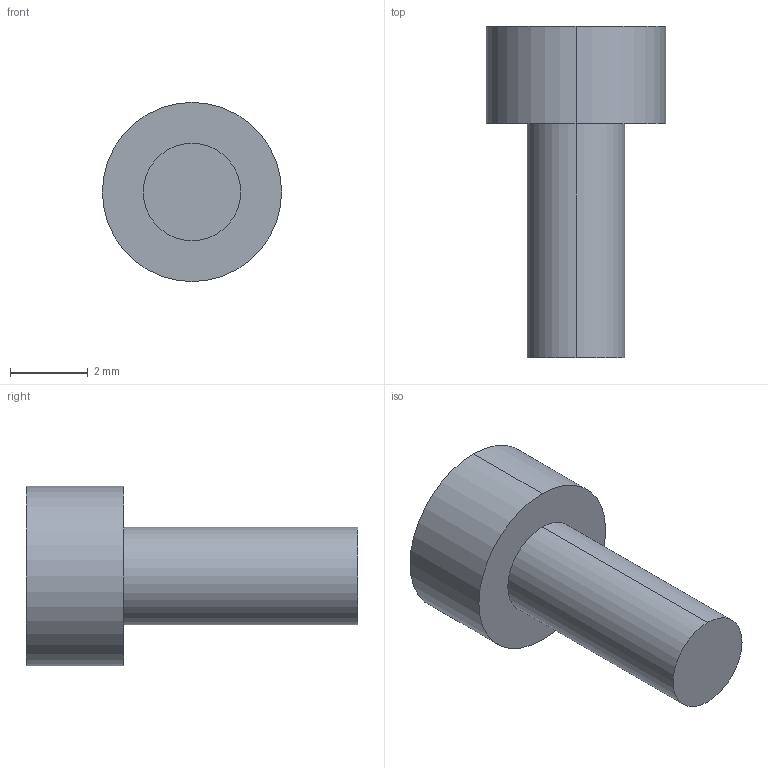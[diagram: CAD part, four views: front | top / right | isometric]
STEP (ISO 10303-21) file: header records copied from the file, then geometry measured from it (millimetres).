
FILE_DESCRIPTION (( 'STEP AP214' ), '1' );
FILE_NAME ('vite M2,5 x 6 brug.STEP', '2016-02-27T11:32:25', ( '' ), ( '' ), 'SwSTEP 2.0', 'SolidWorks 2012', '' );
FILE_SCHEMA (( 'AUTOMOTIVE_DESIGN' ));
Length unit declared in the file: millimetre
Products named in the file (1): vite M2,5 x 6 brug
Bounding box: 4.6 x 8.5 x 4.6 mm (x, y, z)
Volume: 68.9 mm3; surface area: 120.6 mm2
Topology: 1 solids, 1 shells, 14 faces, 30 edges, 20 vertices
Faces by surface type: plane 10, cylinder 4
Entity records: 416 total; most frequent: DIRECTION 68, CARTESIAN_POINT 65, ORIENTED_EDGE 60, EDGE_CURVE 30, AXIS2_PLACEMENT_3D 23, LINE 22, VECTOR 22, VERTEX_POINT 20
